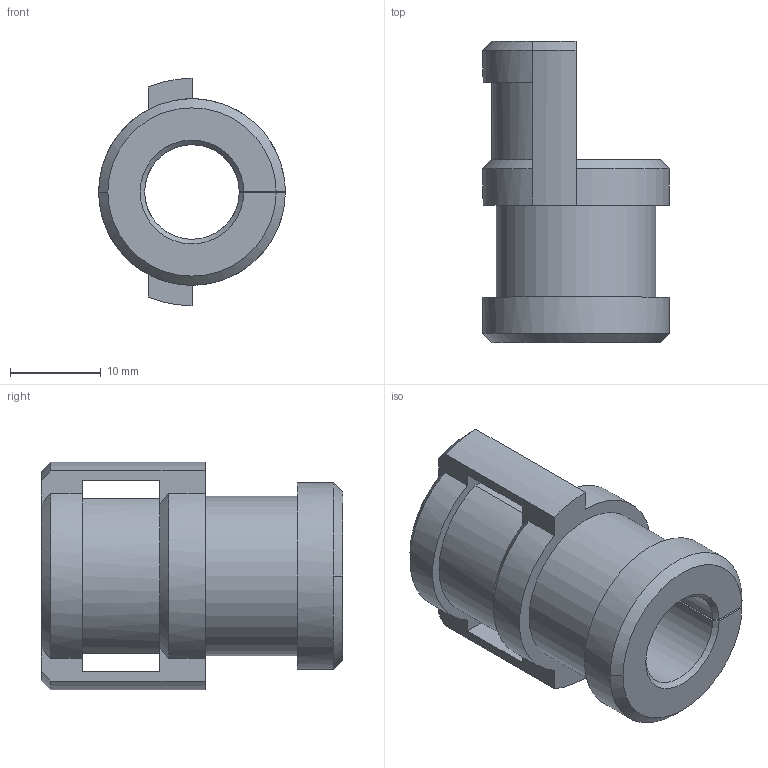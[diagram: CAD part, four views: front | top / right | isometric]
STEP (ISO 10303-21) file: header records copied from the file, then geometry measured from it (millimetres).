
FILE_DESCRIPTION (( 'STEP AP203' ), '1' );
FILE_NAME ('kdt-z09.STEP', '2023-03-03T07:54:40', ( '' ), ( '' ), 'SwSTEP 2.0', 'SolidWorks 2016', '' );
FILE_SCHEMA (( 'CONFIG_CONTROL_DESIGN' ));
Length unit declared in the file: millimetre
Products named in the file (1): kdt-z09
Bounding box: 20.5 x 33.1 x 25 mm (x, y, z)
Volume: 5562.3 mm3; surface area: 3702.3 mm2
Topology: 1 solids, 1 shells, 39 faces, 121 edges, 80 vertices
Faces by surface type: plane 17, cone 12, cylinder 10
Entity records: 1664 total; most frequent: CARTESIAN_POINT 528, ORIENTED_EDGE 242, DIRECTION 201, EDGE_CURVE 121, VERTEX_POINT 80, LINE 67, AXIS2_PLACEMENT_3D 67, VECTOR 67
